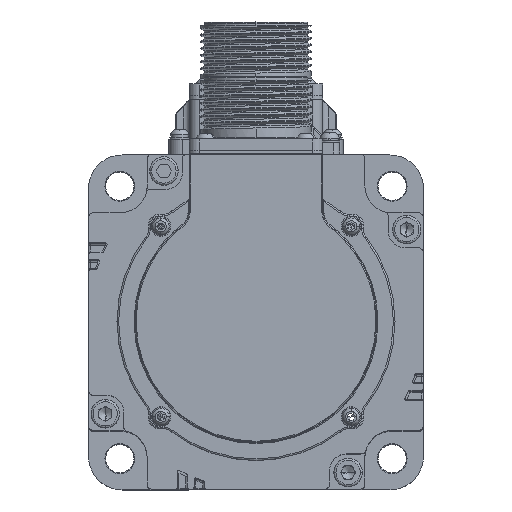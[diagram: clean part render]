
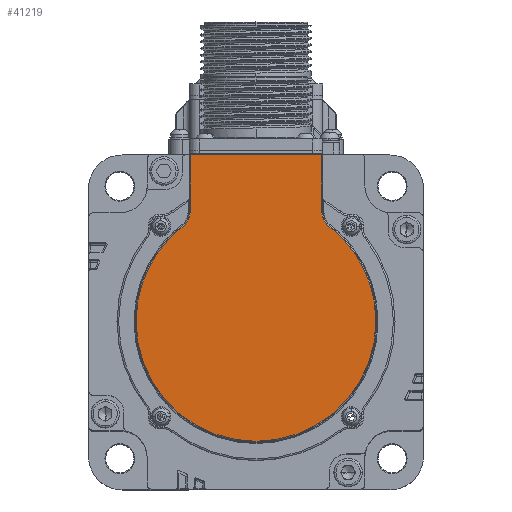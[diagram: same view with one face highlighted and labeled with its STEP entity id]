
A CAD part, top view. The second image highlights one B-rep face of the part: STEP entity #41219.
In plain terms, the highlighted planar face has unit normal (0, 0, 1).
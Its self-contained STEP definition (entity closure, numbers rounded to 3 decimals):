
#1600 = CARTESIAN_POINT ( 'NONE',  ( -26.772, 22.881, 317.9 ) ) ;
#1899 = FACE_OUTER_BOUND ( 'NONE', #11702, .T. ) ;
#2575 = CARTESIAN_POINT ( 'NONE',  ( -32.072, 22.881, 317.9 ) ) ;
#4309 = DIRECTION ( 'NONE',  ( 1., 0., 0. ) ) ;
#5198 = AXIS2_PLACEMENT_3D ( 'NONE', #62601, #16214, #17163 ) ;
#7972 = DIRECTION ( 'NONE',  ( -1., 0., 0. ) ) ;
#9279 = PLANE ( 'NONE',  #48191 ) ;
#9643 = DIRECTION ( 'NONE',  ( 1., 0., 0. ) ) ;
#10160 = ORIENTED_EDGE ( 'NONE', *, *, #72384, .T. ) ;
#11702 = EDGE_LOOP ( 'NONE', ( #84318, #21769, #63334, #46479, #56270, #10160, #65759, #31937 ) ) ;
#15520 = DIRECTION ( 'NONE',  ( 0., 1., 0. ) ) ;
#16214 = DIRECTION ( 'NONE',  ( 0., 0., 1. ) ) ;
#16785 = VERTEX_POINT ( 'NONE', #93119 ) ;
#16803 = DIRECTION ( 'NONE',  ( 0., 0., -1. ) ) ;
#16948 = CARTESIAN_POINT ( 'NONE',  ( -51.772, -9.741, 317.9 ) ) ;
#17163 = DIRECTION ( 'NONE',  ( 1., 0., 0. ) ) ;
#18723 = EDGE_CURVE ( 'NONE', #84212, #54253, #44409, .T. ) ;
#19317 = CIRCLE ( 'NONE', #5198, 35.8 ) ;
#20064 = CARTESIAN_POINT ( 'NONE',  ( -87.572, -9.741, 317.9 ) ) ;
#20341 = CARTESIAN_POINT ( 'NONE',  ( -29.996, 18.674, 317.9 ) ) ;
#20541 = VECTOR ( 'NONE', #7972, 1000. ) ;
#21769 = ORIENTED_EDGE ( 'NONE', *, *, #23670, .T. ) ;
#22873 = VERTEX_POINT ( 'NONE', #20341 ) ;
#23670 = EDGE_CURVE ( 'NONE', #30583, #80783, #65896, .T. ) ;
#24871 = EDGE_CURVE ( 'NONE', #87368, #16785, #31590, .T. ) ;
#27027 = CIRCLE ( 'NONE', #34774, 5.3 ) ;
#27769 = CARTESIAN_POINT ( 'NONE',  ( -71.472, 22.881, 317.9 ) ) ;
#28353 = CARTESIAN_POINT ( 'NONE',  ( -71.472, 39.959, 317.9 ) ) ;
#29893 = EDGE_CURVE ( 'NONE', #16785, #30583, #90030, .T. ) ;
#30583 = VERTEX_POINT ( 'NONE', #28353 ) ;
#31567 = DIRECTION ( 'NONE',  ( 0., 0., 1. ) ) ;
#31590 = LINE ( 'NONE', #60520, #51369 ) ;
#31887 = DIRECTION ( 'NONE',  ( 1., 0., 0. ) ) ;
#31937 = ORIENTED_EDGE ( 'NONE', *, *, #24871, .T. ) ;
#32368 = AXIS2_PLACEMENT_3D ( 'NONE', #16948, #31567, #9643 ) ;
#34605 = CARTESIAN_POINT ( 'NONE',  ( -51.772, -9.741, 317.9 ) ) ;
#34774 = AXIS2_PLACEMENT_3D ( 'NONE', #1600, #16803, #31887 ) ;
#35882 = CARTESIAN_POINT ( 'NONE',  ( -73.549, 18.674, 317.9 ) ) ;
#36618 = CIRCLE ( 'NONE', #86574, 5.3 ) ;
#41219 = ADVANCED_FACE ( 'NONE', ( #1899 ), #9279, .T. ) ;
#44396 = DIRECTION ( 'NONE',  ( 1., 0., 0. ) ) ;
#44409 = CIRCLE ( 'NONE', #74103, 35.8 ) ;
#45679 = VERTEX_POINT ( 'NONE', #35882 ) ;
#45946 = CARTESIAN_POINT ( 'NONE',  ( -51.772, -9.741, 317.9 ) ) ;
#46309 = EDGE_CURVE ( 'NONE', #45679, #84212, #51091, .T. ) ;
#46479 = ORIENTED_EDGE ( 'NONE', *, *, #46309, .T. ) ;
#48191 = AXIS2_PLACEMENT_3D ( 'NONE', #34605, #86898, #4309 ) ;
#51091 = CIRCLE ( 'NONE', #32368, 35.8 ) ;
#51369 = VECTOR ( 'NONE', #15520, 1000. ) ;
#54253 = VERTEX_POINT ( 'NONE', #96383 ) ;
#56246 = CARTESIAN_POINT ( 'NONE',  ( -71.472, 22.881, 317.9 ) ) ;
#56270 = ORIENTED_EDGE ( 'NONE', *, *, #18723, .T. ) ;
#59674 = DIRECTION ( 'NONE',  ( 0., 0., -1. ) ) ;
#60520 = CARTESIAN_POINT ( 'NONE',  ( -32.072, 40.259, 317.9 ) ) ;
#62601 = CARTESIAN_POINT ( 'NONE',  ( -51.772, -9.741, 317.9 ) ) ;
#63334 = ORIENTED_EDGE ( 'NONE', *, *, #85861, .T. ) ;
#65759 = ORIENTED_EDGE ( 'NONE', *, *, #72167, .T. ) ;
#65896 = LINE ( 'NONE', #27769, #68267 ) ;
#68267 = VECTOR ( 'NONE', #72265, 1000. ) ;
#72167 = EDGE_CURVE ( 'NONE', #22873, #87368, #27027, .T. ) ;
#72265 = DIRECTION ( 'NONE',  ( 0., -1., 0. ) ) ;
#72384 = EDGE_CURVE ( 'NONE', #54253, #22873, #19317, .T. ) ;
#74103 = AXIS2_PLACEMENT_3D ( 'NONE', #45946, #75820, #84586 ) ;
#75820 = DIRECTION ( 'NONE',  ( 0., 0., 1. ) ) ;
#80783 = VERTEX_POINT ( 'NONE', #56246 ) ;
#84212 = VERTEX_POINT ( 'NONE', #20064 ) ;
#84318 = ORIENTED_EDGE ( 'NONE', *, *, #29893, .T. ) ;
#84586 = DIRECTION ( 'NONE',  ( 1., 0., 0. ) ) ;
#85861 = EDGE_CURVE ( 'NONE', #80783, #45679, #36618, .T. ) ;
#86574 = AXIS2_PLACEMENT_3D ( 'NONE', #89870, #59674, #44396 ) ;
#86898 = DIRECTION ( 'NONE',  ( 0., 0., 1. ) ) ;
#87368 = VERTEX_POINT ( 'NONE', #2575 ) ;
#89870 = CARTESIAN_POINT ( 'NONE',  ( -76.772, 22.881, 317.9 ) ) ;
#90030 = LINE ( 'NONE', #96424, #20541 ) ;
#93119 = CARTESIAN_POINT ( 'NONE',  ( -32.072, 39.959, 317.9 ) ) ;
#96383 = CARTESIAN_POINT ( 'NONE',  ( -15.972, -9.741, 317.9 ) ) ;
#96424 = CARTESIAN_POINT ( 'NONE',  ( -71.772, 39.959, 317.9 ) ) ;
